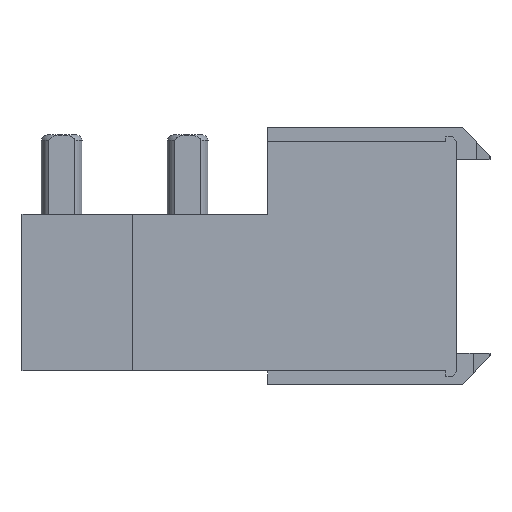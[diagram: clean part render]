
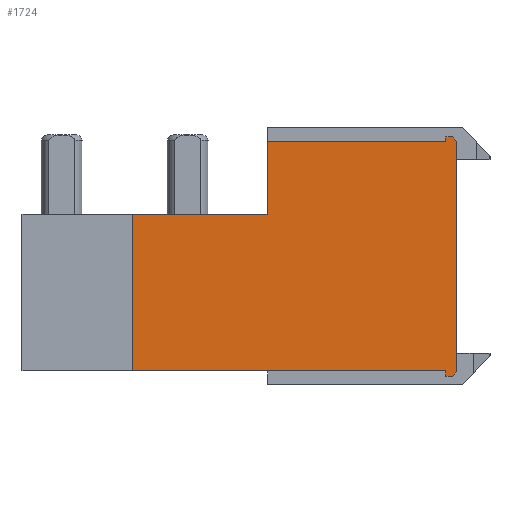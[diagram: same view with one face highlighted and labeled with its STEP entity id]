
A CAD part, left-side view. The second image highlights one B-rep face of the part: STEP entity #1724.
In plain terms, the highlighted planar face has unit normal (-1, 0, 0).
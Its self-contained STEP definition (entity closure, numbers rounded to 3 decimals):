
#215 = LINE ( 'NONE', #221, #7781 ) ;
#221 = CARTESIAN_POINT ( 'NONE',  ( 32.093, 86.205, -11.575 ) ) ;
#222 = DIRECTION ( 'NONE',  ( 0., 1., 0. ) ) ;
#263 = LINE ( 'NONE', #264, #7802 ) ;
#264 = CARTESIAN_POINT ( 'NONE',  ( 32.093, 93.93, -6.125 ) ) ;
#268 = LINE ( 'NONE', #274, #7797 ) ;
#273 = DIRECTION ( 'NONE',  ( 0., 0., 1. ) ) ;
#274 = CARTESIAN_POINT ( 'NONE',  ( 32.093, 86.205, -0.65 ) ) ;
#276 = DIRECTION ( 'NONE',  ( 0., -1., 0. ) ) ;
#390 = LINE ( 'NONE', #391, #7839 ) ;
#391 = CARTESIAN_POINT ( 'NONE',  ( 32.093, 78.58, -11.725 ) ) ;
#401 = DIRECTION ( 'NONE',  ( 0., 0.707, -0.707 ) ) ;
#1050 = EDGE_CURVE ( 'NONE', #6008, #6005, #8626, .T. ) ;
#1051 = EDGE_CURVE ( 'NONE', #6008, #6011, #8629, .T. ) ;
#1143 = EDGE_CURVE ( 'NONE', #6012, #2914, #7240, .T. ) ;
#1438 = EDGE_CURVE ( 'NONE', #6001, #6015, #8992, .T. ) ;
#1444 = EDGE_CURVE ( 'NONE', #6015, #6011, #8983, .T. ) ;
#1457 = LINE ( 'NONE', #1468, #8674 ) ;
#1468 = CARTESIAN_POINT ( 'NONE',  ( 32.093, 93.255, -4.112 ) ) ;
#1471 = DIRECTION ( 'NONE',  ( 0., 1., 0. ) ) ;
#1477 = EDGE_CURVE ( 'NONE', #6009, #6004, #9062, .T. ) ;
#1494 = EDGE_CURVE ( 'NONE', #6010, #6009, #9086, .T. ) ;
#1597 = EDGE_CURVE ( 'NONE', #2914, #2918, #1457, .T. ) ;
#1724 = ADVANCED_FACE ( 'NONE', ( #1855 ), #1844, .F. ) ;
#1844 = PLANE ( 'NONE',  #3135 ) ;
#1848 = CARTESIAN_POINT ( 'NONE',  ( 32.093, 78.48, -0.425 ) ) ;
#1855 = FACE_OUTER_BOUND ( 'NONE', #5529, .T. ) ;
#1859 = DIRECTION ( 'NONE',  ( 1., 0., 0. ) ) ;
#1861 = DIRECTION ( 'NONE',  ( 0., 0., -1. ) ) ;
#1986 = EDGE_CURVE ( 'NONE', #6010, #6013, #215, .T. ) ;
#2026 = EDGE_CURVE ( 'NONE', #6013, #2918, #263, .T. ) ;
#2029 = EDGE_CURVE ( 'NONE', #6012, #6001, #268, .T. ) ;
#2118 = EDGE_CURVE ( 'NONE', #6005, #6004, #390, .T. ) ;
#2914 = VERTEX_POINT ( 'NONE', #6747 ) ;
#2918 = VERTEX_POINT ( 'NONE', #6751 ) ;
#3135 = AXIS2_PLACEMENT_3D ( 'NONE', #1848, #1859, #1861 ) ;
#3493 = ORIENTED_EDGE ( 'NONE', *, *, #1051, .T. ) ;
#3494 = ORIENTED_EDGE ( 'NONE', *, *, #1444, .F. ) ;
#3495 = ORIENTED_EDGE ( 'NONE', *, *, #1438, .F. ) ;
#3496 = ORIENTED_EDGE ( 'NONE', *, *, #2029, .F. ) ;
#3497 = ORIENTED_EDGE ( 'NONE', *, *, #1143, .T. ) ;
#3498 = ORIENTED_EDGE ( 'NONE', *, *, #1597, .T. ) ;
#3499 = ORIENTED_EDGE ( 'NONE', *, *, #2026, .F. ) ;
#3500 = ORIENTED_EDGE ( 'NONE', *, *, #1986, .F. ) ;
#3501 = ORIENTED_EDGE ( 'NONE', *, *, #1494, .T. ) ;
#3502 = ORIENTED_EDGE ( 'NONE', *, *, #1477, .T. ) ;
#3503 = ORIENTED_EDGE ( 'NONE', *, *, #2118, .F. ) ;
#3504 = ORIENTED_EDGE ( 'NONE', *, *, #1050, .F. ) ;
#5529 = EDGE_LOOP ( 'NONE', ( #3493, #3494, #3495, #3496, #3497, #3498, #3499, #3500, #3501, #3502, #3503, #3504 ) ) ;
#5741 = CARTESIAN_POINT ( 'NONE',  ( 32.093, 78.98, -0.65 ) ) ;
#5744 = CARTESIAN_POINT ( 'NONE',  ( 32.093, 78.68, -11.825 ) ) ;
#5745 = CARTESIAN_POINT ( 'NONE',  ( 32.093, 78.48, -11.625 ) ) ;
#5746 = CARTESIAN_POINT ( 'NONE',  ( 32.093, 78.48, -0.625 ) ) ;
#5747 = CARTESIAN_POINT ( 'NONE',  ( 32.093, 78.98, -11.825 ) ) ;
#5748 = CARTESIAN_POINT ( 'NONE',  ( 32.093, 78.98, -11.575 ) ) ;
#5749 = CARTESIAN_POINT ( 'NONE',  ( 32.093, 78.68, -0.425 ) ) ;
#5750 = CARTESIAN_POINT ( 'NONE',  ( 32.093, 87.48, -0.65 ) ) ;
#5751 = CARTESIAN_POINT ( 'NONE',  ( 32.093, 93.93, -11.575 ) ) ;
#5753 = CARTESIAN_POINT ( 'NONE',  ( 32.093, 78.98, -0.425 ) ) ;
#6001 = VERTEX_POINT ( 'NONE', #5741 ) ;
#6004 = VERTEX_POINT ( 'NONE', #5744 ) ;
#6005 = VERTEX_POINT ( 'NONE', #5745 ) ;
#6008 = VERTEX_POINT ( 'NONE', #5746 ) ;
#6009 = VERTEX_POINT ( 'NONE', #5747 ) ;
#6010 = VERTEX_POINT ( 'NONE', #5748 ) ;
#6011 = VERTEX_POINT ( 'NONE', #5749 ) ;
#6012 = VERTEX_POINT ( 'NONE', #5750 ) ;
#6013 = VERTEX_POINT ( 'NONE', #5751 ) ;
#6015 = VERTEX_POINT ( 'NONE', #5753 ) ;
#6345 = VECTOR ( 'NONE', #8632, 1000. ) ;
#6348 = VECTOR ( 'NONE', #8628, 1000. ) ;
#6747 = CARTESIAN_POINT ( 'NONE',  ( 32.093, 87.48, -4.112 ) ) ;
#6751 = CARTESIAN_POINT ( 'NONE',  ( 32.093, 93.93, -4.112 ) ) ;
#7142 = VECTOR ( 'NONE', #7242, 1000. ) ;
#7173 = VECTOR ( 'NONE', #8996, 1000. ) ;
#7181 = VECTOR ( 'NONE', #9005, 1000. ) ;
#7196 = VECTOR ( 'NONE', #9064, 1000. ) ;
#7201 = VECTOR ( 'NONE', #9090, 1000. ) ;
#7240 = LINE ( 'NONE', #7241, #7142 ) ;
#7241 = CARTESIAN_POINT ( 'NONE',  ( 32.093, 87.48, -2.044 ) ) ;
#7242 = DIRECTION ( 'NONE',  ( 0., 0., -1. ) ) ;
#7781 = VECTOR ( 'NONE', #222, 1000. ) ;
#7797 = VECTOR ( 'NONE', #276, 1000. ) ;
#7802 = VECTOR ( 'NONE', #273, 1000. ) ;
#7839 = VECTOR ( 'NONE', #401, 1000. ) ;
#8626 = LINE ( 'NONE', #8627, #6348 ) ;
#8627 = CARTESIAN_POINT ( 'NONE',  ( 32.093, 78.48, -6.125 ) ) ;
#8628 = DIRECTION ( 'NONE',  ( 0., 0., -1. ) ) ;
#8629 = LINE ( 'NONE', #8631, #6345 ) ;
#8631 = CARTESIAN_POINT ( 'NONE',  ( 32.093, 78.58, -0.525 ) ) ;
#8632 = DIRECTION ( 'NONE',  ( 0., 0.707, 0.707 ) ) ;
#8674 = VECTOR ( 'NONE', #1471, 1000. ) ;
#8983 = LINE ( 'NONE', #8991, #7181 ) ;
#8987 = CARTESIAN_POINT ( 'NONE',  ( 32.093, 78.98, -0.538 ) ) ;
#8991 = CARTESIAN_POINT ( 'NONE',  ( 32.093, 78.83, -0.425 ) ) ;
#8992 = LINE ( 'NONE', #8987, #7173 ) ;
#8996 = DIRECTION ( 'NONE',  ( 0., 0., 1. ) ) ;
#9005 = DIRECTION ( 'NONE',  ( 0., -1., 0. ) ) ;
#9062 = LINE ( 'NONE', #9063, #7196 ) ;
#9063 = CARTESIAN_POINT ( 'NONE',  ( 32.093, 78.83, -11.825 ) ) ;
#9064 = DIRECTION ( 'NONE',  ( 0., -1., 0. ) ) ;
#9082 = CARTESIAN_POINT ( 'NONE',  ( 32.093, 78.98, -11.7 ) ) ;
#9086 = LINE ( 'NONE', #9082, #7201 ) ;
#9090 = DIRECTION ( 'NONE',  ( 0., 0., -1. ) ) ;
